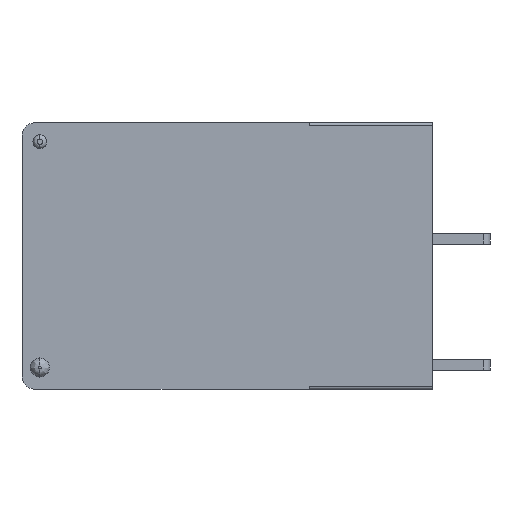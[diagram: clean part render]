
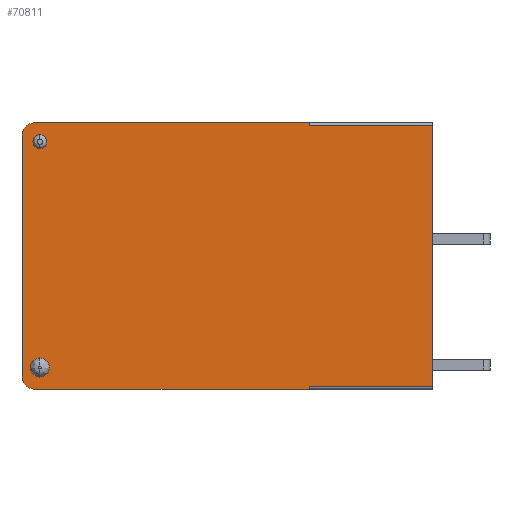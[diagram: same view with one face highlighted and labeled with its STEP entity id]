
A CAD part, left-side view. The second image highlights one B-rep face of the part: STEP entity #70811.
In plain terms, the highlighted planar face has unit normal (-1, 0, 0).
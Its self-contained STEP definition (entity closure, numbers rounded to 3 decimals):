
#386=DIRECTION('',(0.,1.,0.));
#387=VECTOR('',#386,20.);
#388=CARTESIAN_POINT('',(0.,13.2,-19.5));
#389=LINE('',#388,#387);
#734=DIRECTION('',(0.,-1.,0.));
#735=VECTOR('',#734,9.);
#736=CARTESIAN_POINT('',(0.,13.2,-0.2));
#737=LINE('',#736,#735);
#1038=DIRECTION('',(0.,0.,1.));
#1039=VECTOR('',#1038,17.5);
#1040=CARTESIAN_POINT('',(0.,34.2,-18.5));
#1041=LINE('',#1040,#1039);
#1064=CARTESIAN_POINT('',(0.,32.9,-1.4));
#1065=DIRECTION('',(1.,0.,0.));
#1066=DIRECTION('',(0.,0.,1.));
#1067=AXIS2_PLACEMENT_3D('',#1064,#1065,#1066);
#1069=CARTESIAN_POINT('',(0.,32.9,-1.4));
#1070=DIRECTION('',(1.,0.,0.));
#1071=DIRECTION('',(0.,0.,-1.));
#1072=AXIS2_PLACEMENT_3D('',#1069,#1070,#1071);
#1074=CARTESIAN_POINT('',(0.,32.9,-17.9));
#1075=DIRECTION('',(1.,0.,0.));
#1076=DIRECTION('',(0.,0.,1.));
#1077=AXIS2_PLACEMENT_3D('',#1074,#1075,#1076);
#1079=CARTESIAN_POINT('',(0.,32.9,-17.9));
#1080=DIRECTION('',(1.,0.,0.));
#1081=DIRECTION('',(0.,0.,-1.));
#1082=AXIS2_PLACEMENT_3D('',#1079,#1080,#1081);
#1084=DIRECTION('',(0.,0.,1.));
#1085=VECTOR('',#1084,0.2);
#1086=CARTESIAN_POINT('',(0.,13.2,-0.2));
#1087=LINE('',#1086,#1085);
#1088=DIRECTION('',(0.,0.,1.));
#1089=VECTOR('',#1088,19.1);
#1090=CARTESIAN_POINT('',(0.,4.2,-19.3));
#1091=LINE('',#1090,#1089);
#1092=DIRECTION('',(0.,0.,1.));
#1093=VECTOR('',#1092,0.2);
#1094=CARTESIAN_POINT('',(0.,13.2,-19.5));
#1095=LINE('',#1094,#1093);
#1096=CARTESIAN_POINT('',(0.,33.2,-18.5));
#1097=DIRECTION('',(-1.,0.,0.));
#1098=DIRECTION('',(0.,1.,0.));
#1099=AXIS2_PLACEMENT_3D('',#1096,#1097,#1098);
#1101=CARTESIAN_POINT('',(0.,33.2,-1.));
#1102=DIRECTION('',(-1.,0.,0.));
#1103=DIRECTION('',(0.,0.,1.));
#1104=AXIS2_PLACEMENT_3D('',#1101,#1102,#1103);
#1106=DIRECTION('',(0.,1.,0.));
#1107=VECTOR('',#1106,20.);
#1108=CARTESIAN_POINT('',(0.,13.2,0.));
#1109=LINE('',#1108,#1107);
#1186=DIRECTION('',(0.,1.,0.));
#1187=VECTOR('',#1186,9.);
#1188=CARTESIAN_POINT('',(0.,4.2,-19.3));
#1189=LINE('',#1188,#1187);
#58498=CARTESIAN_POINT('',(0.,13.2,0.));
#58499=CARTESIAN_POINT('',(0.,33.2,0.));
#58500=VERTEX_POINT('',#58498);
#58501=VERTEX_POINT('',#58499);
#58516=CARTESIAN_POINT('',(0.,13.2,-19.5));
#58517=CARTESIAN_POINT('',(0.,33.2,-19.5));
#58518=VERTEX_POINT('',#58516);
#58519=VERTEX_POINT('',#58517);
#58520=CARTESIAN_POINT('',(0.,34.2,-18.5));
#58521=VERTEX_POINT('',#58520);
#58522=CARTESIAN_POINT('',(0.,34.2,-1.));
#58523=VERTEX_POINT('',#58522);
#58524=CARTESIAN_POINT('',(0.,32.9,-18.6));
#58525=CARTESIAN_POINT('',(0.,32.9,-17.2));
#58526=VERTEX_POINT('',#58524);
#58527=VERTEX_POINT('',#58525);
#58528=CARTESIAN_POINT('',(0.,32.9,-1.9));
#58529=CARTESIAN_POINT('',(0.,32.9,-0.9));
#58530=VERTEX_POINT('',#58528);
#58531=VERTEX_POINT('',#58529);
#58888=CARTESIAN_POINT('',(0.,4.2,-19.3));
#58890=VERTEX_POINT('',#58888);
#58892=CARTESIAN_POINT('',(0.,4.2,-0.2));
#58893=VERTEX_POINT('',#58892);
#66796=CARTESIAN_POINT('',(0.,13.2,-0.2));
#66798=VERTEX_POINT('',#66796);
#66800=CARTESIAN_POINT('',(0.,13.2,-19.3));
#66802=VERTEX_POINT('',#66800);
#70780=CARTESIAN_POINT('',(0.,8.,-8.7));
#70781=DIRECTION('',(1.,0.,0.));
#70782=DIRECTION('',(0.,-1.,0.));
#70783=AXIS2_PLACEMENT_3D('',#70780,#70781,#70782);
#70784=PLANE('',#70783);
#70785=ORIENTED_EDGE('',*,*,#70190,.F.);
#70786=ORIENTED_EDGE('',*,*,#70323,.T.);
#70787=ORIENTED_EDGE('',*,*,#69609,.F.);
#70789=ORIENTED_EDGE('',*,*,#70788,.T.);
#70790=ORIENTED_EDGE('',*,*,#70205,.F.);
#70791=ORIENTED_EDGE('',*,*,#69584,.T.);
#70793=ORIENTED_EDGE('',*,*,#70792,.F.);
#70794=ORIENTED_EDGE('',*,*,#70755,.T.);
#70795=ORIENTED_EDGE('',*,*,#70773,.F.);
#70796=ORIENTED_EDGE('',*,*,#70411,.F.);
#70797=EDGE_LOOP('',(#70785,#70786,#70787,#70789,#70790,#70791,#70793,#70794,
#70795,#70796));
#70798=FACE_OUTER_BOUND('',#70797,.F.);
#70800=ORIENTED_EDGE('',*,*,#70799,.F.);
#70802=ORIENTED_EDGE('',*,*,#70801,.F.);
#70803=EDGE_LOOP('',(#70800,#70802));
#70804=FACE_BOUND('',#70803,.F.);
#70806=ORIENTED_EDGE('',*,*,#70805,.F.);
#70808=ORIENTED_EDGE('',*,*,#70807,.F.);
#70809=EDGE_LOOP('',(#70806,#70808));
#70810=FACE_BOUND('',#70809,.F.);
#70811=ADVANCED_FACE('',(#70798,#70804,#70810),#70784,.F.);
#1068=CIRCLE('',#1067,0.5);
#1073=CIRCLE('',#1072,0.5);
#1078=CIRCLE('',#1077,0.7);
#1083=CIRCLE('',#1082,0.7);
#1100=CIRCLE('',#1099,1.);
#1105=CIRCLE('',#1104,1.);
#69584=EDGE_CURVE('',#58518,#58519,#389,.T.);
#69609=EDGE_CURVE('',#58890,#58893,#1091,.T.);
#70190=EDGE_CURVE('',#66798,#58500,#1087,.T.);
#70205=EDGE_CURVE('',#58518,#66802,#1095,.T.);
#70323=EDGE_CURVE('',#66798,#58893,#737,.T.);
#70411=EDGE_CURVE('',#58500,#58501,#1109,.T.);
#70755=EDGE_CURVE('',#58521,#58523,#1041,.T.);
#70773=EDGE_CURVE('',#58501,#58523,#1105,.T.);
#70788=EDGE_CURVE('',#58890,#66802,#1189,.T.);
#70792=EDGE_CURVE('',#58521,#58519,#1100,.T.);
#70799=EDGE_CURVE('',#58527,#58526,#1078,.T.);
#70801=EDGE_CURVE('',#58526,#58527,#1083,.T.);
#70805=EDGE_CURVE('',#58531,#58530,#1068,.T.);
#70807=EDGE_CURVE('',#58530,#58531,#1073,.T.);
